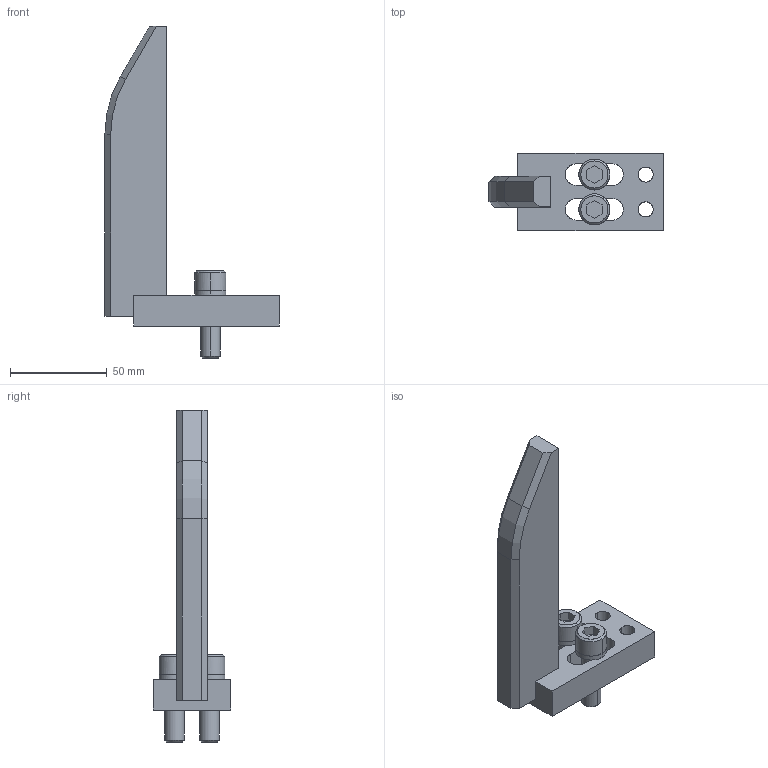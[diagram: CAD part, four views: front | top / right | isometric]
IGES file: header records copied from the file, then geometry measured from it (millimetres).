
Global section: file name: E:\UnigraphicsGraphicData\MISUMI_PRESS-PARTS\IGES\3d_ngnbc-155-40-m10_01538_r00.igs; native system: NX V5.0; preprocessor: UGS NX IGES V5.0; author: MISUMI; date: 20110105.162051; units: millimetre
Bounding box: 90 x 40 x 171.5 mm (x, y, z)
Surface area: 30840 mm2 (no closed solid volume)
Topology: 0 solids, 0 shells, 104 faces, 665 edges, 665 vertices
Faces by surface type: bspline 104
